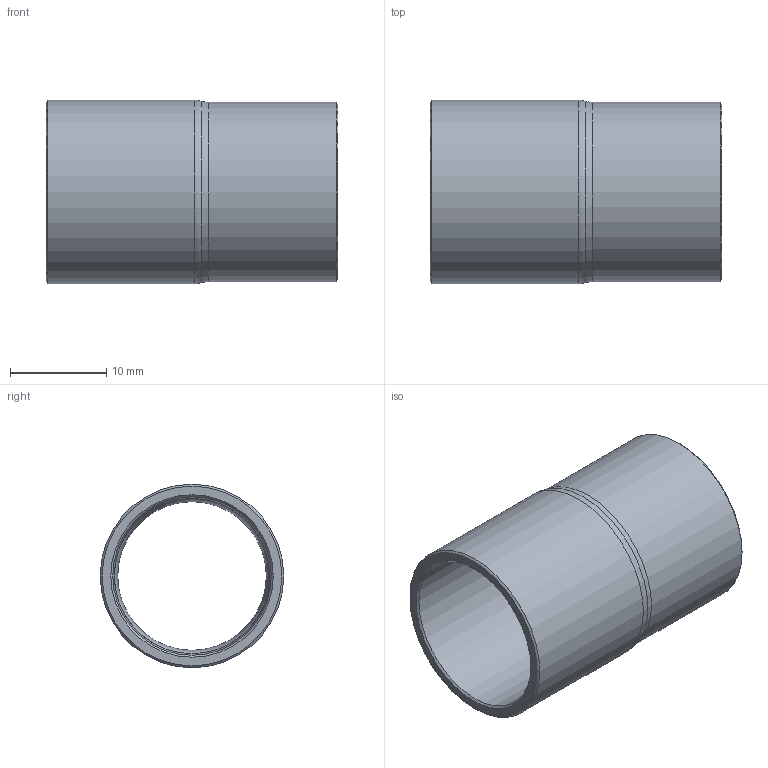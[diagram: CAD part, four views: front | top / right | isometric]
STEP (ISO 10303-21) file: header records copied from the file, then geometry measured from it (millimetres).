
FILE_DESCRIPTION((''),'2;1');
FILE_NAME('G:\SANHA-Ternat\Technik\Management\Bouwmaten + markeringen\z-maattekeningen 3D\29000s\292433458_3d.stp','2017-08-03T15:51:09',('vdvijverd'),(''),'Autodesk Inventor 2009','Autodesk Inventor 2009','');
FILE_SCHEMA(('AUTOMOTIVE_DESIGN { 1 0 10303 214 1 1 1 1 }'));
Length unit declared in the file: millimetre
Products named in the file (1): 292433458_3d
Bounding box: 30.3 x 19.05 x 19.05 mm (x, y, z)
Volume: 2194.5 mm3; surface area: 3464.1 mm2
Topology: 1 solids, 1 shells, 16 faces, 30 edges, 16 vertices
Faces by surface type: cone 5, cylinder 4, bspline 3, plane 2, torus 2
Full cylindrical faces by diameter (mm): 15.995 x1, 16.45 x1, 18.595 x1, 19.05 x1
Entity records: 474 total; most frequent: CARTESIAN_POINT 181, DIRECTION 60, ORIENTED_EDGE 32, EDGE_LOOP 32, AXIS2_PLACEMENT_3D 30, VERTEX_POINT 16, CIRCLE 16, EDGE_CURVE 16
